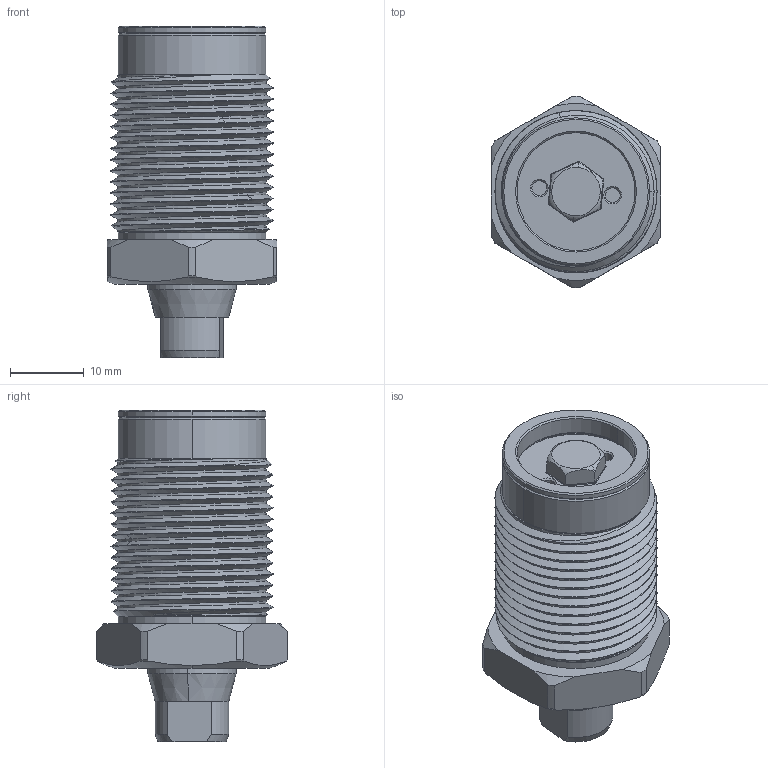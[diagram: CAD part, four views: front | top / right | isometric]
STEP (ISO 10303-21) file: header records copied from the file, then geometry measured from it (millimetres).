
FILE_DESCRIPTION((''),'2;1');
FILE_NAME('SIMP_PUSH_CYLINDER_ASM','2023-04-17T09:28:59',('Design 2'),(''),'CREO PARAMETRIC BY PTC INC, 2020053','CREO PARAMETRIC BY PTC INC, 2020053','');
FILE_SCHEMA(('CONFIG_CONTROL_DESIGN'));
Length unit declared in the file: millimetre
Products named in the file (6): THREADED_BODY_; ROD___; WASHER___; PISTON_____ASM; COPPER_WASHER__; SIMP_PUSH_CYLINDER_ASM
Assembly tree (5 placements, depth 3):
  SIMP_PUSH_CYLINDER_ASM
    THREADED_BODY_
    PISTON_____ASM
      ROD___
      WASHER___
    COPPER_WASHER__
Bounding box: 23 x 26 x 45 mm (x, y, z)
Volume: 12036.3 mm3; surface area: 8454.1 mm2
Topology: 4 solids, 4 shells, 189 faces, 464 edges, 291 vertices
Faces by surface type: cylinder 83, cone 44, plane 34, bspline 26, torus 2
Entity records: 13402 total; most frequent: CARTESIAN_POINT 9084, ORIENTED_EDGE 928, DIRECTION 783, EDGE_CURVE 464, AXIS2_PLACEMENT_3D 308, VERTEX_POINT 291, EDGE_LOOP 205, FACE_OUTER_BOUND 189
